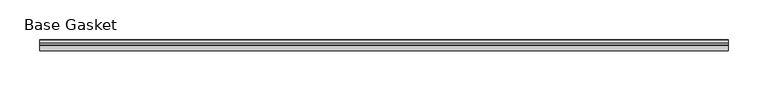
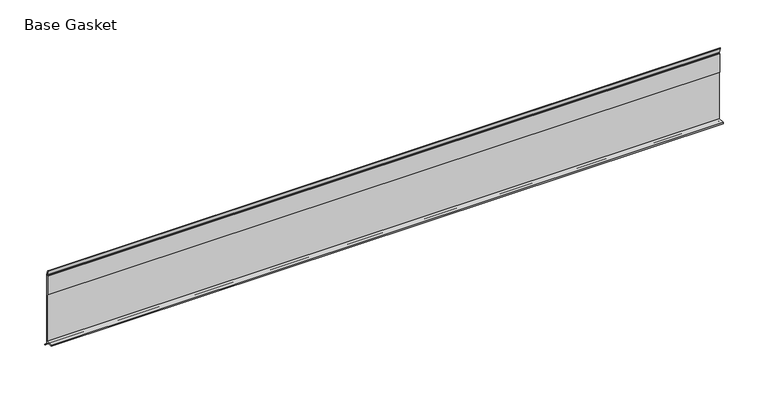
"""IFC4 building model written with IfcOpenShell, lengths in millimetres: furniture geometry, Gasket-Teknion-FHGB-AI_Healthcare-R2021 : Base Gasket."""

from ifc_helpers import new_model, si_unit, frame, origin, place, context, project, spatial, polyline, outline, extrude, source, transform, mapped, element, save


def base_gasket_4f987517(model_context):
    return source(origin(), model_context, "Body", "SweptSolid", [
        extrude(outline(polyline([(3.7283812, 98.4568417), (3.7283812, 4.3498477), (7.4222115, 0.6560174), (7.8482342, 0.0), (6.8281054, 0.3520979), (2.2043812, 4.3498477), (2.1334222, 6.3818476), (-6.2405171, 6.3818476), (-6.2405171, 7.9398773), (2.2043812, 7.9398773), (2.2043812, 71.4693447), (1.4106313, 71.4693447), (1.4106313, 96.8693477), (2.2043812, 96.8693477), (2.2043812, 98.4568417), (0.6755308, 104.4162708), (0.6755308, 105.2002997), (1.1891543, 104.587663), (3.7283812, 98.4568417)])), frame((-1527.8982117, 0.0, 0.0), z_axis=(1.0, 0.0, 0.0), x_axis=(0.0, 1.0, 0.0)), (0.0, 0.0, 1.0), 866.1590981),
    ])


if __name__ == "__main__":
    model = new_model("IFC4")
    model_context = context("Model", 3, world=origin())
    ifc_project = project(units=[si_unit("LENGTHUNIT", "METRE", prefix="MILLI")], contexts=[model_context])
    site = spatial("IfcSite", under=ifc_project)
    building = spatial("IfcBuilding", under=site)
    placement = place(None, origin())
    base_gasket_shape = base_gasket_4f987517(model_context)
    element("IfcFurniture", 1, ObjectType="Gasket-Teknion-FHGB-AI_Healthcare-R2021 : Base Gasket", at=placement, inside=building, context=model_context, shape_type="MappedRepresentation", body=[
        mapped(base_gasket_shape, transform((0.0, 0.0, 0.0), x_axis=(1.0, 0.0, 0.0), y_axis=(0.0, 1.0, 0.0), z_axis=(0.0, 0.0, 1.0))),
    ])
    save(model, "model.ifc")
